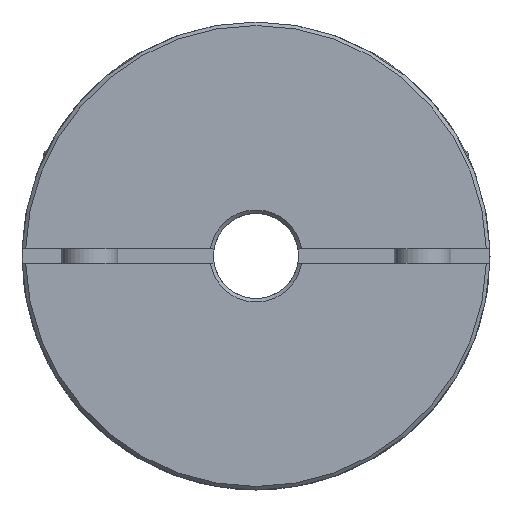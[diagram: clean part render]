
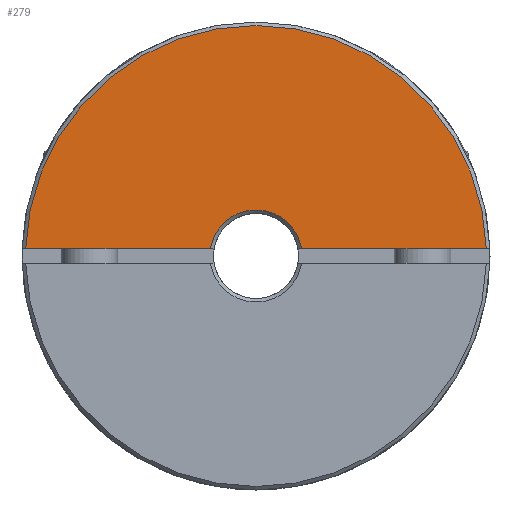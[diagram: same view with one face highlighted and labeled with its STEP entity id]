
A CAD part, left-side view. The second image highlights one B-rep face of the part: STEP entity #279.
In plain terms, the highlighted planar face has unit normal (-1, 0, 0) as drawn and (1, 0, 0) by its records, which use the part's own axes.
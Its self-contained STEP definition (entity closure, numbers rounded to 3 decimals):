
#279 = ADVANCED_FACE( '', ( #575 ), #576, .T. );
#575 = FACE_OUTER_BOUND( '', #982, .T. );
#576 = PLANE( '', #983 );
#982 = EDGE_LOOP( '', ( #1410, #1411, #1412, #1413 ) );
#983 = AXIS2_PLACEMENT_3D( '', #1414, #1415, #1416 );
#1410 = ORIENTED_EDGE( '', *, *, #2061, .F. );
#1411 = ORIENTED_EDGE( '', *, *, #2062, .T. );
#1412 = ORIENTED_EDGE( '', *, *, #2063, .F. );
#1413 = ORIENTED_EDGE( '', *, *, #2064, .T. );
#1414 = CARTESIAN_POINT( '', ( 24., 0., 33. ) );
#1415 = DIRECTION( '', ( 1., 0., 0. ) );
#1416 = DIRECTION( '', ( 0., 0., -1. ) );
#2061 = EDGE_CURVE( '', #2347, #2348, #2349, .T. );
#2062 = EDGE_CURVE( '', #2347, #2350, #2351, .T. );
#2063 = EDGE_CURVE( '', #2352, #2350, #2353, .T. );
#2064 = EDGE_CURVE( '', #2352, #2348, #2354, .F. );
#2347 = VERTEX_POINT( '', #2958 );
#2348 = VERTEX_POINT( '', #2959 );
#2349 = LINE( '', #2960, #2961 );
#2350 = VERTEX_POINT( '', #2962 );
#2351 = CIRCLE( '', #2963, 32.5 );
#2352 = VERTEX_POINT( '', #2964 );
#2353 = LINE( '', #2965, #2966 );
#2354 = CIRCLE( '', #2967, 6.5 );
#2958 = CARTESIAN_POINT( '', ( 24., 32.485, 1. ) );
#2959 = CARTESIAN_POINT( '', ( 24., 6.423, 1. ) );
#2960 = CARTESIAN_POINT( '', ( 24., 0., 1. ) );
#2961 = VECTOR( '', #3447, 1000. );
#2962 = CARTESIAN_POINT( '', ( 24., -32.485, 1. ) );
#2963 = AXIS2_PLACEMENT_3D( '', #3448, #3449, #3450 );
#2964 = CARTESIAN_POINT( '', ( 24., -6.423, 1. ) );
#2965 = CARTESIAN_POINT( '', ( 24., 0., 1. ) );
#2966 = VECTOR( '', #3451, 1000. );
#2967 = AXIS2_PLACEMENT_3D( '', #3452, #3453, #3454 );
#3447 = DIRECTION( '', ( 0., -1., 0. ) );
#3448 = CARTESIAN_POINT( '', ( 24., 0., 0. ) );
#3449 = DIRECTION( '', ( 1., 0., 0. ) );
#3450 = DIRECTION( '', ( 0., 0., -1. ) );
#3451 = DIRECTION( '', ( 0., -1., 0. ) );
#3452 = CARTESIAN_POINT( '', ( 24., 0., 0. ) );
#3453 = DIRECTION( '', ( 1., 0., 0. ) );
#3454 = DIRECTION( '', ( 0., 0., -1. ) );
